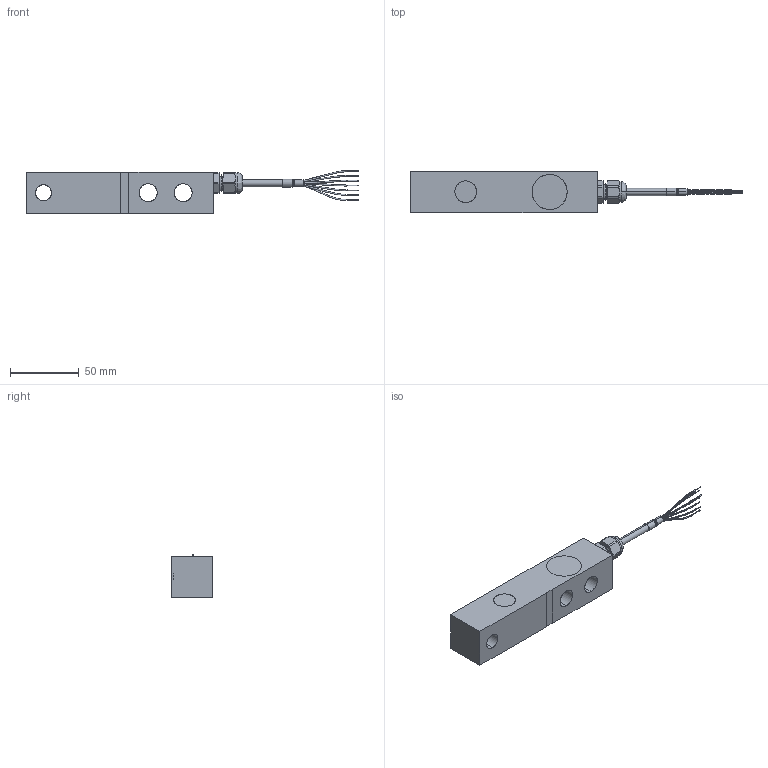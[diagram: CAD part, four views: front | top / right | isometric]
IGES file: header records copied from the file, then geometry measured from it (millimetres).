
Start section: SolidWorks IGES file using analytic representation for surfaces
Global section: file name: C:\0_Work\SolidWorks\0_Load Points\HI SLB Series\Load Sensor_HISLB Series.IGS; native system: SolidWorks 2020; preprocessor: SolidWorks 2020; author: vach01; date: 230630.080802; units: millimetre
Bounding box: 241.5 x 30.1 x 31.15 mm (x, y, z)
Surface area: 29197.1 mm2 (no closed solid volume)
Topology: 0 solids, 0 shells, 278 faces, 2822 edges, 2822 vertices
Faces by surface type: revolution 178, bspline 100
